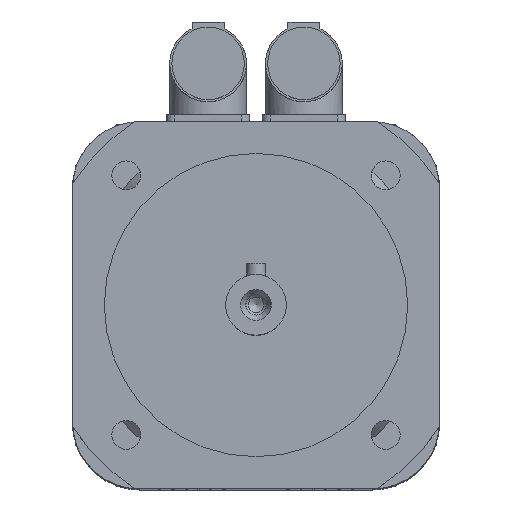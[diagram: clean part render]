
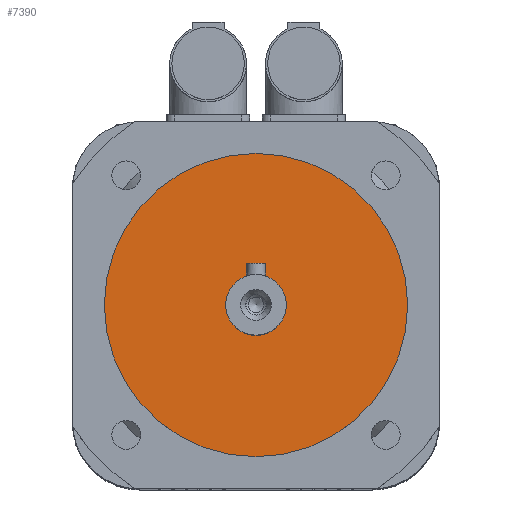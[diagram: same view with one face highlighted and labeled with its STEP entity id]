
A CAD part, top view. The second image highlights one B-rep face of the part: STEP entity #7390.
In plain terms, the highlighted planar face has unit normal (0, 0, 1).
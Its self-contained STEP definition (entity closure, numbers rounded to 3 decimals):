
#1603=PLANE('',#7889);
#2052=FACE_BOUND('',#2627,.T.);
#2146=FACE_OUTER_BOUND('',#2626,.T.);
#2626=EDGE_LOOP('',(#5423));
#2627=EDGE_LOOP('',(#5424));
#3132=CIRCLE('',#7888,9.5);
#3133=CIRCLE('',#7890,47.5);
#3541=VERTEX_POINT('',#11268);
#3542=VERTEX_POINT('',#11271);
#4274=EDGE_CURVE('',#3541,#3541,#3132,.T.);
#4275=EDGE_CURVE('',#3542,#3542,#3133,.T.);
#5423=ORIENTED_EDGE('',*,*,#4275,.F.);
#5424=ORIENTED_EDGE('',*,*,#4274,.T.);
#7390=ADVANCED_FACE('',(#2146,#2052),#1603,.T.);
#7888=AXIS2_PLACEMENT_3D('',#11269,#8858,#8859);
#7889=AXIS2_PLACEMENT_3D('',#11270,#8860,#8861);
#7890=AXIS2_PLACEMENT_3D('',#11272,#8862,#8863);
#8858=DIRECTION('center_axis',(0.,0.,-1.));
#8859=DIRECTION('ref_axis',(1.,0.,0.));
#8860=DIRECTION('center_axis',(0.,0.,1.));
#8861=DIRECTION('ref_axis',(1.,0.,0.));
#8862=DIRECTION('center_axis',(0.,0.,-1.));
#8863=DIRECTION('ref_axis',(1.,0.,0.));
#11268=CARTESIAN_POINT('',(0.,9.5,208.));
#11269=CARTESIAN_POINT('Origin',(0.,0.,208.));
#11270=CARTESIAN_POINT('Origin',(0.,47.5,208.));
#11271=CARTESIAN_POINT('',(0.,47.5,208.));
#11272=CARTESIAN_POINT('Origin',(0.,0.,208.));
